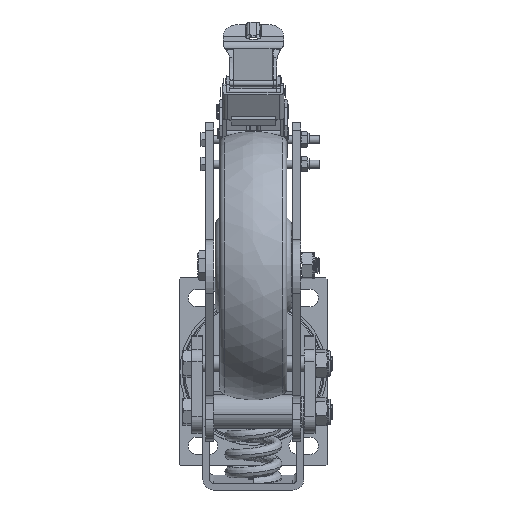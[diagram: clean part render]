
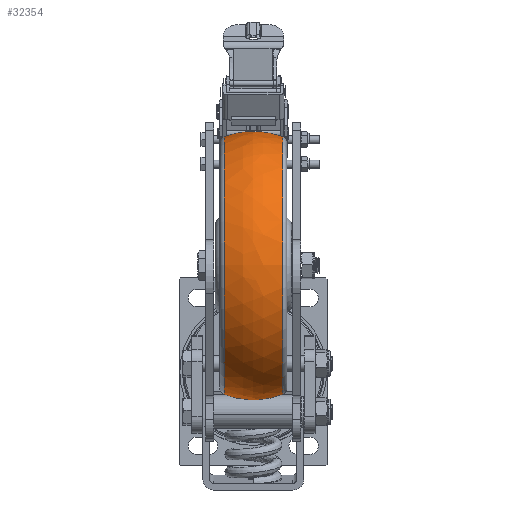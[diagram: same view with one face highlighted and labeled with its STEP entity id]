
A CAD part, top view. The second image highlights one B-rep face of the part: STEP entity #32354.
In plain terms, the highlighted free-form (B-spline) face has degree [3, 3] with [7, 4] control points.
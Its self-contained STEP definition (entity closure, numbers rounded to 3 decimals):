
#32121=CARTESIAN_POINT('',(0.,118.887,180.));
#32122=DIRECTION('',(0.,0.,1.));
#32123=DIRECTION('',(0.364,0.932,0.));
#32124=AXIS2_PLACEMENT_3D('',#32121,#32122,#32123);
#32126=CARTESIAN_POINT('',(0.,38.887,180.));
#32127=DIRECTION('',(0.,0.,-1.));
#32128=DIRECTION('',(0.364,-0.932,0.));
#32129=AXIS2_PLACEMENT_3D('',#32126,#32127,#32128);
#32136=CARTESIAN_POINT('',(21.818,78.887,180.));
#32137=DIRECTION('',(1.,0.,0.));
#32138=DIRECTION('',(0.,1.,0.));
#32139=AXIS2_PLACEMENT_3D('',#32136,#32137,#32138);
#32141=CARTESIAN_POINT('',(-21.818,78.887,180.));
#32142=DIRECTION('',(1.,0.,0.));
#32143=DIRECTION('',(0.,1.,0.));
#32144=AXIS2_PLACEMENT_3D('',#32141,#32142,#32143);
#32182=CARTESIAN_POINT('',(21.818,174.78,180.));
#32184=VERTEX_POINT('',#32182);
#32185=CARTESIAN_POINT('',(-21.818,174.78,180.));
#32186=VERTEX_POINT('',#32185);
#32190=CARTESIAN_POINT('',(21.818,-17.005,180.));
#32192=VERTEX_POINT('',#32190);
#32193=CARTESIAN_POINT('',(-21.818,-17.005,180.));
#32194=VERTEX_POINT('',#32193);
#32318=CARTESIAN_POINT('',(-22.648,174.26,
174.));
#32319=CARTESIAN_POINT('',(-7.941,180.243,
173.623));
#32320=CARTESIAN_POINT('',(7.941,180.243,173.623));
#32321=CARTESIAN_POINT('',(22.648,174.26,174.));
#32322=CARTESIAN_POINT('',(-22.648,177.953,
232.692));
#32323=CARTESIAN_POINT('',(-7.941,184.167,
235.997));
#32324=CARTESIAN_POINT('',(7.941,184.167,235.997));
#32325=CARTESIAN_POINT('',(22.648,177.953,232.692));
#32326=CARTESIAN_POINT('',(-22.648,137.695,
275.561));
#32327=CARTESIAN_POINT('',(-7.941,141.385,
281.556));
#32328=CARTESIAN_POINT('',(7.941,141.385,281.556));
#32329=CARTESIAN_POINT('',(22.648,137.695,275.561));
#32330=CARTESIAN_POINT('',(-22.648,78.887,275.561));
#32331=CARTESIAN_POINT('',(-7.941,78.887,281.556));
#32332=CARTESIAN_POINT('',(7.941,78.887,281.556));
#32333=CARTESIAN_POINT('',(22.648,78.887,275.561));
#32334=CARTESIAN_POINT('',(-22.648,20.079,
275.561));
#32335=CARTESIAN_POINT('',(-7.941,16.39,
281.556));
#32336=CARTESIAN_POINT('',(7.941,16.39,281.556));
#32337=CARTESIAN_POINT('',(22.648,20.079,275.561));
#32338=CARTESIAN_POINT('',(-22.648,-20.178,
232.692));
#32339=CARTESIAN_POINT('',(-7.941,-26.393,
235.997));
#32340=CARTESIAN_POINT('',(7.941,-26.393,
235.997));
#32341=CARTESIAN_POINT('',(22.648,-20.178,
232.692));
#32342=CARTESIAN_POINT('',(-22.648,-16.486,
174.));
#32343=CARTESIAN_POINT('',(-7.941,-22.469,
173.623));
#32344=CARTESIAN_POINT('',(7.941,-22.469,
173.623));
#32345=CARTESIAN_POINT('',(22.648,-16.486,
174.));
#32346=(BOUNDED_SURFACE()B_SPLINE_SURFACE(3,3,((#32318,#32319,#32320,#32321),(
#32322,#32323,#32324,#32325),(#32326,#32327,#32328,#32329),(#32330,#32331,
#32332,#32333),(#32334,#32335,#32336,#32337),(#32338,#32339,#32340,#32341),(
#32342,#32343,#32344,#32345)),.UNSPECIFIED.,.F.,.F.,.F.)B_SPLINE_SURFACE_WITH_KNOTS((4,3,4),(4,4),(0.,1.,2.),(0.,1.),.UNSPECIFIED.)GEOMETRIC_REPRESENTATION_ITEM()RATIONAL_B_SPLINE_SURFACE(((1.233,1.172,
1.172,1.233),(0.974,0.926,
0.926,0.974),(0.974,0.926,
0.926,0.974),(1.233,1.172,
1.172,1.233),(0.974,0.926,
0.926,0.974),(0.974,0.926,
0.926,0.974),(1.233,1.172,
1.172,1.233)))REPRESENTATION_ITEM('')SURFACE());
#32347=ORIENTED_EDGE('',*,*,#32301,.F.);
#32348=ORIENTED_EDGE('',*,*,#32240,.T.);
#32349=ORIENTED_EDGE('',*,*,#32305,.T.);
#32351=ORIENTED_EDGE('',*,*,#32350,.F.);
#32352=EDGE_LOOP('',(#32347,#32348,#32349,#32351));
#32353=FACE_OUTER_BOUND('',#32352,.F.);
#32125=CIRCLE('',#32124,60.);
#32130=CIRCLE('',#32129,60.);
#32140=CIRCLE('',#32139,95.892);
#32145=CIRCLE('',#32144,95.892);
#32240=EDGE_CURVE('',#32184,#32192,#32140,.T.);
#32301=EDGE_CURVE('',#32184,#32186,#32125,.T.);
#32305=EDGE_CURVE('',#32192,#32194,#32130,.T.);
#32350=EDGE_CURVE('',#32186,#32194,#32145,.T.);
#32354=ADVANCED_FACE('',(#32353),#32346,.T.);
